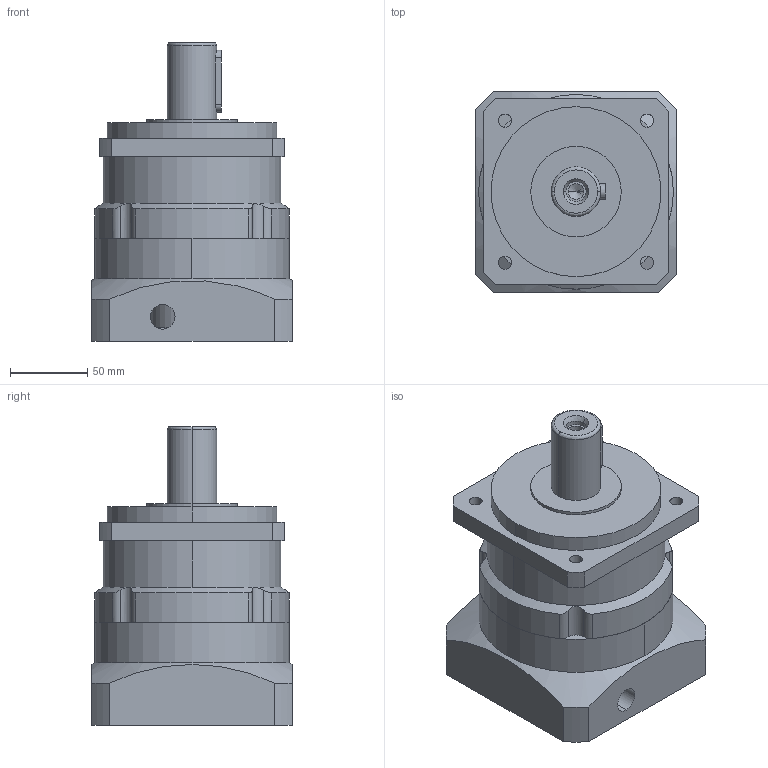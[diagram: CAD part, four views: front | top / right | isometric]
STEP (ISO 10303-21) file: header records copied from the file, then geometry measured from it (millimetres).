
FILE_DESCRIPTION (( 'STEP AP203' ), '1' );
FILE_NAME ('PLM120-L1-28-110-145-M8.STEP', '2023-12-28T06:12:46', ( 'Windows User' ), ( 'P R C' ), 'SwSTEP 2.0', 'SolidWorks 2016', '' );
FILE_SCHEMA (( 'CONFIG_CONTROL_DESIGN' ));
Length unit declared in the file: millimetre
Products named in the file (7): PLM120-薊粣ん-28_LZ03; PLM120-帣釱; 囀鞠褒蹟佪-M8℅25; 粣創-6009 45x75x16; 邧埴瑩 10x8x40; PLM120-L1-28-110-145-M8; PLM.120-本体齿圈
Assembly tree (6 placements, depth 2):
  PLM120-L1-28-110-145-M8
    PLM.120-本体齿圈
    PLM120-薊粣ん-28_LZ03
    PLM120-帣釱
    囀鞠褒蹟佪-M8℅25
    粣創-6009 45x75x16
    邧埴瑩 10x8x40
Bounding box: 130 x 130 x 193.5 mm (x, y, z)
Volume: 1624797.8 mm3; surface area: 197046.5 mm2
Topology: 6 solids, 6 shells, 950 faces, 2589 edges, 1705 vertices
Faces by surface type: plane 534, bspline 272, cylinder 128, cone 16
Entity records: 41534 total; most frequent: CARTESIAN_POINT 18541, ORIENTED_EDGE 5158, DIRECTION 3714, EDGE_CURVE 2579, VERTEX_POINT 1705, LINE 1504, VECTOR 1504, AXIS2_PLACEMENT_3D 1105
